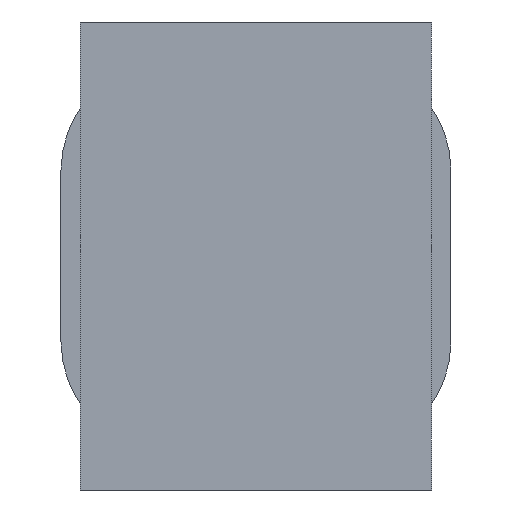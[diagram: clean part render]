
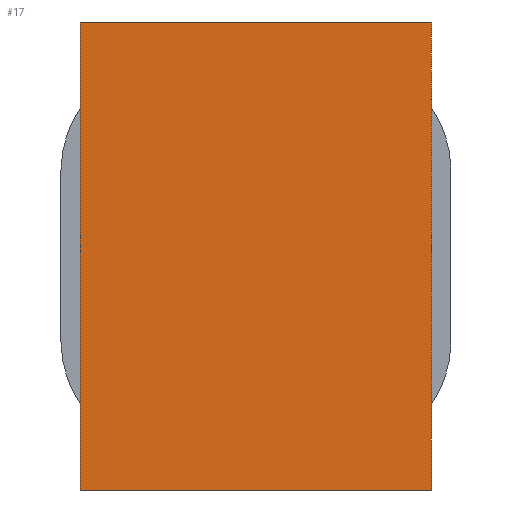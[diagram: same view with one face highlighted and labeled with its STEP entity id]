
A CAD part, left-side view. The second image highlights one B-rep face of the part: STEP entity #17.
In plain terms, the highlighted planar face has unit normal (-1, 0, 0).
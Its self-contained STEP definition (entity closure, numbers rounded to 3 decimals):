
#17 = ADVANCED_FACE('',(#18),#32,.F.);
#18 = FACE_BOUND('',#19,.F.);
#19 = EDGE_LOOP('',(#20,#55,#83,#111));
#20 = ORIENTED_EDGE('',*,*,#21,.F.);
#21 = EDGE_CURVE('',#22,#24,#26,.T.);
#22 = VERTEX_POINT('',#23);
#23 = CARTESIAN_POINT('',(136.85,-4.5,-6.));
#24 = VERTEX_POINT('',#25);
#25 = CARTESIAN_POINT('',(136.85,-4.5,6.));
#26 = SURFACE_CURVE('',#27,(#31,#43),.PCURVE_S1.);
#27 = LINE('',#28,#29);
#28 = CARTESIAN_POINT('',(136.85,-4.5,-6.));
#29 = VECTOR('',#30,1.);
#30 = DIRECTION('',(0.,0.,1.));
#31 = PCURVE('',#32,#37);
#32 = PLANE('',#33);
#33 = AXIS2_PLACEMENT_3D('',#34,#35,#36);
#34 = CARTESIAN_POINT('',(136.85,-4.5,-6.));
#35 = DIRECTION('',(1.,0.,-0.));
#36 = DIRECTION('',(0.,0.,1.));
#37 = DEFINITIONAL_REPRESENTATION('',(#38),#42);
#38 = LINE('',#39,#40);
#39 = CARTESIAN_POINT('',(0.,0.));
#40 = VECTOR('',#41,1.);
#41 = DIRECTION('',(1.,0.));
#42 = ( GEOMETRIC_REPRESENTATION_CONTEXT(2) 
PARAMETRIC_REPRESENTATION_CONTEXT() REPRESENTATION_CONTEXT('2D SPACE',''
  ) );
#43 = PCURVE('',#44,#49);
#44 = PLANE('',#45);
#45 = AXIS2_PLACEMENT_3D('',#46,#47,#48);
#46 = CARTESIAN_POINT('',(136.85,-4.5,-6.));
#47 = DIRECTION('',(-0.,1.,0.));
#48 = DIRECTION('',(0.,0.,1.));
#49 = DEFINITIONAL_REPRESENTATION('',(#50),#54);
#50 = LINE('',#51,#52);
#51 = CARTESIAN_POINT('',(0.,0.));
#52 = VECTOR('',#53,1.);
#53 = DIRECTION('',(1.,0.));
#54 = ( GEOMETRIC_REPRESENTATION_CONTEXT(2) 
PARAMETRIC_REPRESENTATION_CONTEXT() REPRESENTATION_CONTEXT('2D SPACE',''
  ) );
#55 = ORIENTED_EDGE('',*,*,#56,.T.);
#56 = EDGE_CURVE('',#22,#57,#59,.T.);
#57 = VERTEX_POINT('',#58);
#58 = CARTESIAN_POINT('',(136.85,4.5,-6.));
#59 = SURFACE_CURVE('',#60,(#64,#71),.PCURVE_S1.);
#60 = LINE('',#61,#62);
#61 = CARTESIAN_POINT('',(136.85,-4.5,-6.));
#62 = VECTOR('',#63,1.);
#63 = DIRECTION('',(-0.,1.,0.));
#64 = PCURVE('',#32,#65);
#65 = DEFINITIONAL_REPRESENTATION('',(#66),#70);
#66 = LINE('',#67,#68);
#67 = CARTESIAN_POINT('',(0.,0.));
#68 = VECTOR('',#69,1.);
#69 = DIRECTION('',(0.,-1.));
#70 = ( GEOMETRIC_REPRESENTATION_CONTEXT(2) 
PARAMETRIC_REPRESENTATION_CONTEXT() REPRESENTATION_CONTEXT('2D SPACE',''
  ) );
#71 = PCURVE('',#72,#77);
#72 = PLANE('',#73);
#73 = AXIS2_PLACEMENT_3D('',#74,#75,#76);
#74 = CARTESIAN_POINT('',(136.85,-4.5,-6.));
#75 = DIRECTION('',(0.,0.,1.));
#76 = DIRECTION('',(1.,0.,-0.));
#77 = DEFINITIONAL_REPRESENTATION('',(#78),#82);
#78 = LINE('',#79,#80);
#79 = CARTESIAN_POINT('',(0.,0.));
#80 = VECTOR('',#81,1.);
#81 = DIRECTION('',(0.,1.));
#82 = ( GEOMETRIC_REPRESENTATION_CONTEXT(2) 
PARAMETRIC_REPRESENTATION_CONTEXT() REPRESENTATION_CONTEXT('2D SPACE',''
  ) );
#83 = ORIENTED_EDGE('',*,*,#84,.T.);
#84 = EDGE_CURVE('',#57,#85,#87,.T.);
#85 = VERTEX_POINT('',#86);
#86 = CARTESIAN_POINT('',(136.85,4.5,6.));
#87 = SURFACE_CURVE('',#88,(#92,#99),.PCURVE_S1.);
#88 = LINE('',#89,#90);
#89 = CARTESIAN_POINT('',(136.85,4.5,-6.));
#90 = VECTOR('',#91,1.);
#91 = DIRECTION('',(0.,0.,1.));
#92 = PCURVE('',#32,#93);
#93 = DEFINITIONAL_REPRESENTATION('',(#94),#98);
#94 = LINE('',#95,#96);
#95 = CARTESIAN_POINT('',(0.,-9.));
#96 = VECTOR('',#97,1.);
#97 = DIRECTION('',(1.,0.));
#98 = ( GEOMETRIC_REPRESENTATION_CONTEXT(2) 
PARAMETRIC_REPRESENTATION_CONTEXT() REPRESENTATION_CONTEXT('2D SPACE',''
  ) );
#99 = PCURVE('',#100,#105);
#100 = PLANE('',#101);
#101 = AXIS2_PLACEMENT_3D('',#102,#103,#104);
#102 = CARTESIAN_POINT('',(136.85,4.5,-6.));
#103 = DIRECTION('',(-0.,1.,0.));
#104 = DIRECTION('',(0.,0.,1.));
#105 = DEFINITIONAL_REPRESENTATION('',(#106),#110);
#106 = LINE('',#107,#108);
#107 = CARTESIAN_POINT('',(0.,0.));
#108 = VECTOR('',#109,1.);
#109 = DIRECTION('',(1.,0.));
#110 = ( GEOMETRIC_REPRESENTATION_CONTEXT(2) 
PARAMETRIC_REPRESENTATION_CONTEXT() REPRESENTATION_CONTEXT('2D SPACE',''
  ) );
#111 = ORIENTED_EDGE('',*,*,#112,.F.);
#112 = EDGE_CURVE('',#24,#85,#113,.T.);
#113 = SURFACE_CURVE('',#114,(#118,#125),.PCURVE_S1.);
#114 = LINE('',#115,#116);
#115 = CARTESIAN_POINT('',(136.85,-4.5,6.));
#116 = VECTOR('',#117,1.);
#117 = DIRECTION('',(-0.,1.,0.));
#118 = PCURVE('',#32,#119);
#119 = DEFINITIONAL_REPRESENTATION('',(#120),#124);
#120 = LINE('',#121,#122);
#121 = CARTESIAN_POINT('',(12.,0.));
#122 = VECTOR('',#123,1.);
#123 = DIRECTION('',(0.,-1.));
#124 = ( GEOMETRIC_REPRESENTATION_CONTEXT(2) 
PARAMETRIC_REPRESENTATION_CONTEXT() REPRESENTATION_CONTEXT('2D SPACE',''
  ) );
#125 = PCURVE('',#126,#131);
#126 = PLANE('',#127);
#127 = AXIS2_PLACEMENT_3D('',#128,#129,#130);
#128 = CARTESIAN_POINT('',(136.85,-4.5,6.));
#129 = DIRECTION('',(0.,0.,1.));
#130 = DIRECTION('',(1.,0.,-0.));
#131 = DEFINITIONAL_REPRESENTATION('',(#132),#136);
#132 = LINE('',#133,#134);
#133 = CARTESIAN_POINT('',(0.,0.));
#134 = VECTOR('',#135,1.);
#135 = DIRECTION('',(0.,1.));
#136 = ( GEOMETRIC_REPRESENTATION_CONTEXT(2) 
PARAMETRIC_REPRESENTATION_CONTEXT() REPRESENTATION_CONTEXT('2D SPACE',''
  ) );
